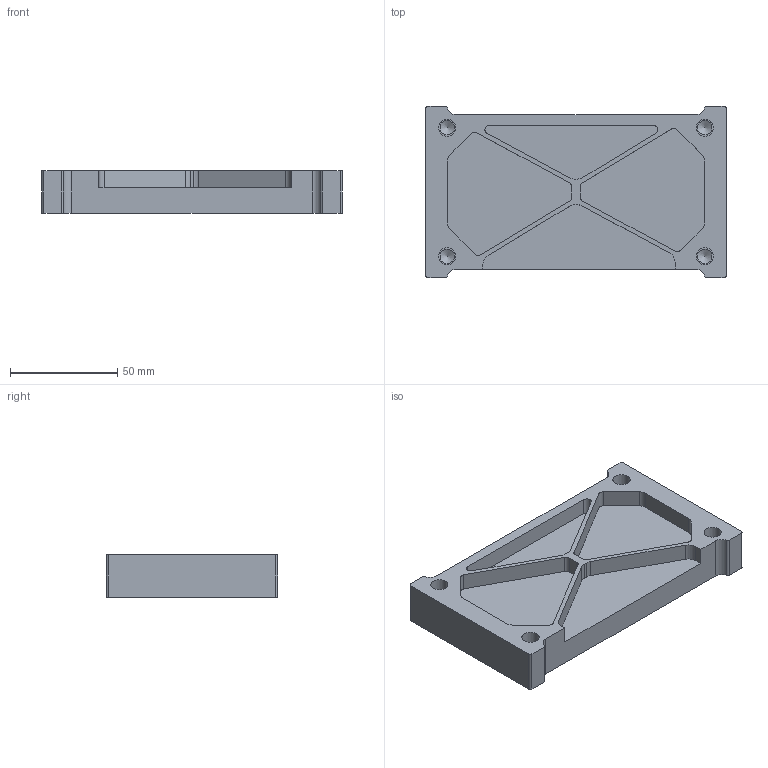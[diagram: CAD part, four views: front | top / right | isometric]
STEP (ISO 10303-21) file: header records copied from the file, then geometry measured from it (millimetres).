
FILE_DESCRIPTION(('STEP AP214'),'1');
FILE_NAME('Holding Plate.STEP','2026-07-07T10:06:35',(' '),('GO2cam international'),'Spatial InterOp 3D','GO2cam V6.13',' ');
FILE_SCHEMA(('AUTOMOTIVE_DESIGN { 1 0 10303 214 1 1 1 1 }'));
Length unit declared in the file: millimetre
Products named in the file (1): 1
Bounding box: 140 x 80 x 20 mm (x, y, z)
Volume: 147372.8 mm3; surface area: 34873.3 mm2
Topology: 1 solids, 1 shells, 83 faces, 222 edges, 148 vertices
Faces by surface type: cylinder 40, plane 39, cone 4
Full cylindrical faces by diameter (mm): 6.75 x4, 8 x4
Entity records: 3494 total; most frequent: DIRECTION 450, CARTESIAN_POINT 430, ORIENTED_EDGE 404, EDGE_CURVE 202, STYLED_ITEM 195, PRESENTATION_STYLE_ASSIGNMENT 195, COLOUR_RGB 195, CURVE_STYLE 194
